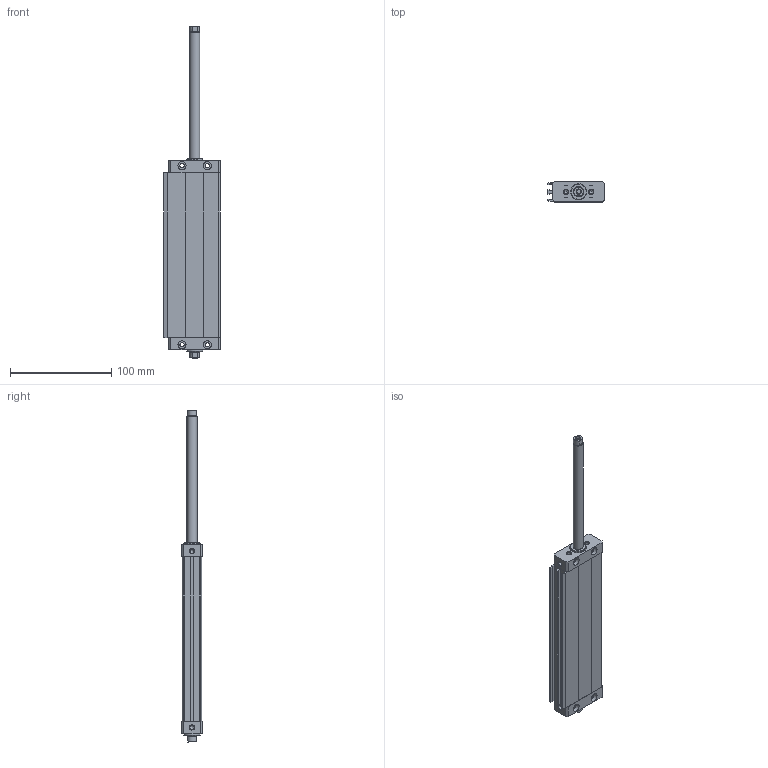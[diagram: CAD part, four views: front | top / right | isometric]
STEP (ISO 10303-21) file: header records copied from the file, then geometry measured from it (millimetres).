
FILE_DESCRIPTION((''),'2;1');
FILE_NAME('I:\Area Tecnica\Disegni\VARIE-3D\Componenti\1370 - CPO\1370_##_0000_03\1370_25_0125_03-01.iam.step','2010-12-16T10:53:14',(''),(''),'Autodesk Inventor 2011','Autodesk Inventor 2011','');
FILE_SCHEMA(('AUTOMOTIVE_DESIGN { 1 0 10303 214 1 1 1 1 }'));
Length unit declared in the file: millimetre
Products named in the file (5): 1370_25_0125_03-01; 1370_05_25_0000; 1370_06_25_0125; 1370_08_25_0000; 1370_3_25_0125
Assembly tree (4 placements, depth 2):
  1370_25_0125_03-01
    1370_05_25_0000
    1370_06_25_0125
    1370_08_25_0000
    1370_3_25_0125
Bounding box: 56.25 x 20 x 328 mm (x, y, z)
Volume: 138733.9 mm3; surface area: 69631.8 mm2
Topology: 4 solids, 4 shells, 158 faces, 378 edges, 238 vertices
Faces by surface type: plane 90, cylinder 48, cone 20
Full cylindrical faces by diameter (mm): 4.2 x22, 5.2 x2, 8 x8, 9.5 x2, 10 x4, 16 x2
Entity records: 4480 total; most frequent: DIRECTION 750, CARTESIAN_POINT 695, ORIENTED_EDGE 608, EDGE_CURVE 304, AXIS2_PLACEMENT_3D 279, EDGE_LOOP 250, VERTEX_POINT 224, VECTOR 192
